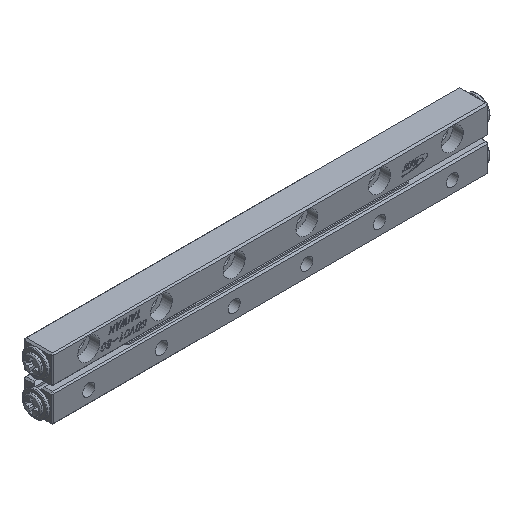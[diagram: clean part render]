
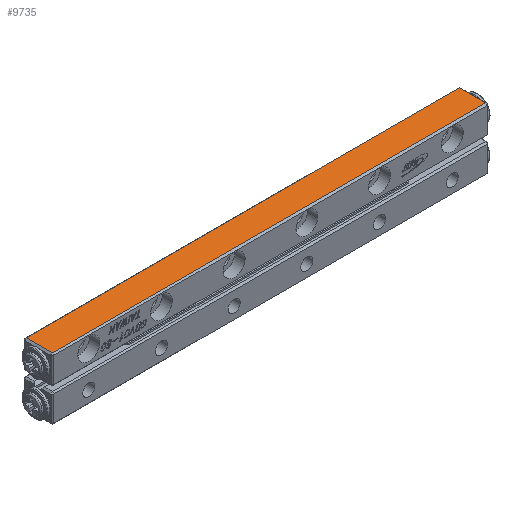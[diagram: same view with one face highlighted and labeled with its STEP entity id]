
A CAD part, isometric view. The second image highlights one B-rep face of the part: STEP entity #9735.
In plain terms, the highlighted planar face has unit normal (0, 0, 1) as drawn and (0, 0, -1) by its records, which use the part's own axes.
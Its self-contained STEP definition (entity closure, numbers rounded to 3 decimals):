
#2002 = CARTESIAN_POINT ( 'NONE',  ( -30., -1.8, 0. ) ) ;
#2966 = EDGE_CURVE ( 'NONE', #5016, #11623, #18792, .T. ) ;
#2980 = VERTEX_POINT ( 'NONE', #3036 ) ;
#3036 = CARTESIAN_POINT ( 'NONE',  ( 29.8, 1.8, 0. ) ) ;
#3481 = ORIENTED_EDGE ( 'NONE', *, *, #19275, .T. ) ;
#4043 = VERTEX_POINT ( 'NONE', #15156 ) ;
#4477 = AXIS2_PLACEMENT_3D ( 'NONE', #7159, #13180, #16110 ) ;
#4559 = CARTESIAN_POINT ( 'NONE',  ( -29.8, 2., 0. ) ) ;
#5016 = VERTEX_POINT ( 'NONE', #7244 ) ;
#5485 = ORIENTED_EDGE ( 'NONE', *, *, #2966, .T. ) ;
#5539 = FACE_OUTER_BOUND ( 'NONE', #14524, .T. ) ;
#5657 = LINE ( 'NONE', #12066, #15280 ) ;
#6174 = DIRECTION ( 'NONE',  ( 0., 1., 0. ) ) ;
#6718 = ORIENTED_EDGE ( 'NONE', *, *, #17828, .T. ) ;
#6962 = PLANE ( 'NONE',  #4477 ) ;
#7159 = CARTESIAN_POINT ( 'NONE',  ( -30., -2., 0. ) ) ;
#7244 = CARTESIAN_POINT ( 'NONE',  ( -29.8, -1.8, 0. ) ) ;
#9226 = EDGE_CURVE ( 'NONE', #4043, #5016, #9753, .T. ) ;
#9735 = ADVANCED_FACE ( 'NONE', ( #5539 ), #6962, .T. ) ;
#9753 = LINE ( 'NONE', #2002, #13257 ) ;
#10286 = ORIENTED_EDGE ( 'NONE', *, *, #9226, .T. ) ;
#11623 = VERTEX_POINT ( 'NONE', #17172 ) ;
#11881 = DIRECTION ( 'NONE',  ( 1., 0., 0. ) ) ;
#12066 = CARTESIAN_POINT ( 'NONE',  ( -30., 1.8, 0. ) ) ;
#12799 = LINE ( 'NONE', #16507, #18436 ) ;
#13180 = DIRECTION ( 'NONE',  ( 0., 0., -1. ) ) ;
#13257 = VECTOR ( 'NONE', #19083, 1000. ) ;
#14524 = EDGE_LOOP ( 'NONE', ( #3481, #6718, #10286, #5485 ) ) ;
#14877 = DIRECTION ( 'NONE',  ( 0., -1., 0. ) ) ;
#15156 = CARTESIAN_POINT ( 'NONE',  ( 29.8, -1.8, 0. ) ) ;
#15280 = VECTOR ( 'NONE', #11881, 1000. ) ;
#16110 = DIRECTION ( 'NONE',  ( 0., 1., 0. ) ) ;
#16507 = CARTESIAN_POINT ( 'NONE',  ( 29.8, -2., 0. ) ) ;
#17172 = CARTESIAN_POINT ( 'NONE',  ( -29.8, 1.8, 0. ) ) ;
#17241 = VECTOR ( 'NONE', #6174, 1000. ) ;
#17828 = EDGE_CURVE ( 'NONE', #2980, #4043, #12799, .T. ) ;
#18436 = VECTOR ( 'NONE', #14877, 1000. ) ;
#18792 = LINE ( 'NONE', #4559, #17241 ) ;
#19083 = DIRECTION ( 'NONE',  ( -1., 0., 0. ) ) ;
#19275 = EDGE_CURVE ( 'NONE', #11623, #2980, #5657, .T. ) ;
